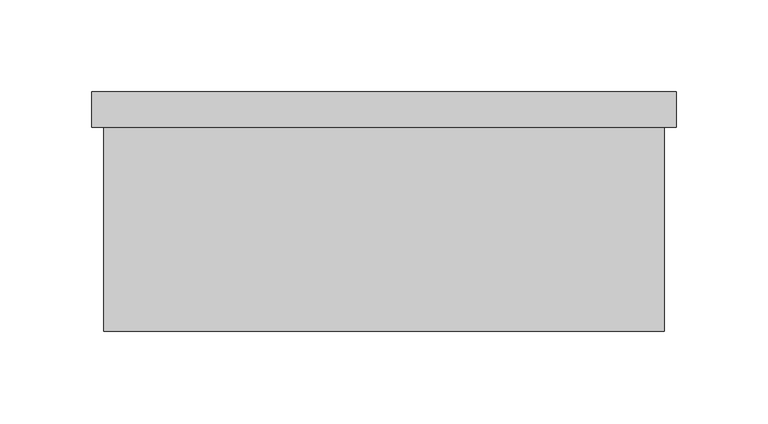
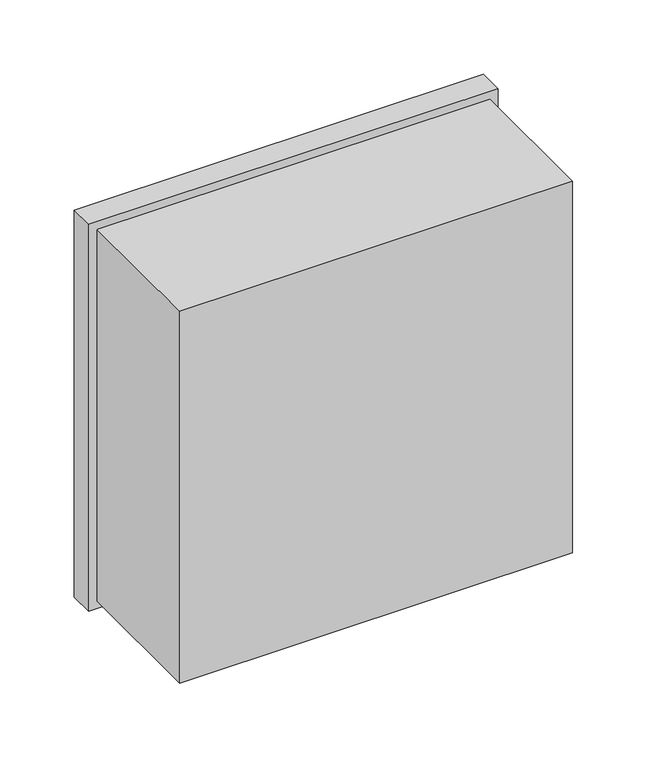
"""IFC4 building model written with IfcOpenShell, lengths in millimetres: proxy geometry, Demarcation Points : Demarcation Points."""

from ifc_helpers import new_model, si_unit, frame, origin, place, context, project, spatial, polyline, outline, extrude, source, transform, mapped, element, save


def electrical_fixtures_1761e137(model_context):
    return source(origin(), model_context, "Body", "SweptSolid", [
        extrude(outline(polyline([(158.75, 61.9125), (-158.75, 61.9125), (-158.75, 80.9625), (158.75, 80.9625), (158.75, 61.9125)])), frame((0.0, 0.0, 1517.65), z_axis=(0.0, 0.0, 1.0), x_axis=(1.0, 0.0, 0.0)), (0.0, 0.0, 1.0), 317.5),
        extrude(outline(polyline([(152.4, -49.2125), (-152.4, -49.2125), (-152.4, 61.9125), (152.4, 61.9125), (152.4, -49.2125)])), frame((0.0, 0.0, 1524.0), z_axis=(0.0, 0.0, 1.0), x_axis=(1.0, 0.0, 0.0)), (0.0, 0.0, 1.0), 304.8),
    ])


if __name__ == "__main__":
    model = new_model("IFC4")
    model_context = context("Model", 3, world=origin())
    ifc_project = project(units=[si_unit("LENGTHUNIT", "METRE", prefix="MILLI")], contexts=[model_context])
    site = spatial("IfcSite", under=ifc_project)
    building = spatial("IfcBuilding", under=site)
    placement = place(None, origin())
    electrical_fixtures_shape = electrical_fixtures_1761e137(model_context)
    element("IfcBuildingElementProxy", 1, Name="Demarcation Points : Demarcation Points", ObjectType="Demarcation Points : Demarcation Points", at=placement, inside=building, context=model_context, shape_type="MappedRepresentation", body=[
        mapped(electrical_fixtures_shape, transform((0.0, 0.0, 0.0), x_axis=(1.0, 0.0, 0.0), y_axis=(0.0, 1.0, 0.0), z_axis=(0.0, 0.0, 1.0))),
    ])
    save(model, "model.ifc")
